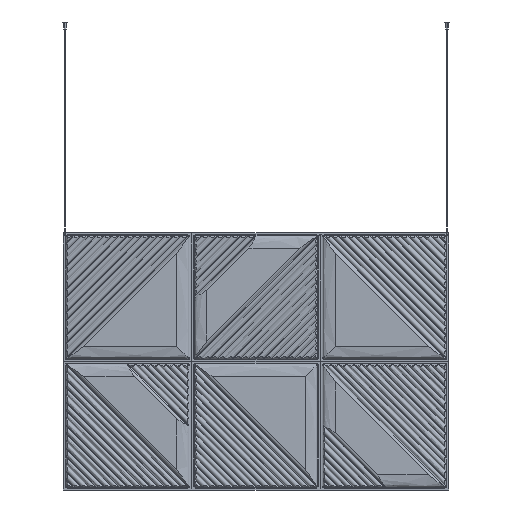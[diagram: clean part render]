
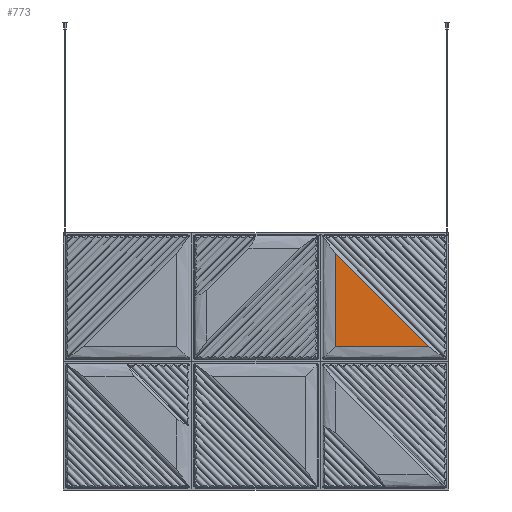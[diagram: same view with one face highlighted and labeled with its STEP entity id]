
A CAD part, front view. The second image highlights one B-rep face of the part: STEP entity #773.
In plain terms, the highlighted planar face has unit normal (0, -1, 0).
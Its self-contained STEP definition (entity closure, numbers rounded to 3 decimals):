
#773=ADVANCED_FACE('',(#1684),#14704,.T.);
#1684=FACE_OUTER_BOUND('',#2616,.T.);
#2616=EDGE_LOOP('',(#6729,#6730,#6731));
#6729=ORIENTED_EDGE('',*,*,#9624,.T.);
#6730=ORIENTED_EDGE('',*,*,#9662,.T.);
#6731=ORIENTED_EDGE('',*,*,#9617,.T.);
#9617=EDGE_CURVE('',#13873,#13872,#11584,.T.);
#9624=EDGE_CURVE('',#13872,#13879,#11590,.T.);
#9662=EDGE_CURVE('',#13879,#13873,#11627,.T.);
#11584=B_SPLINE_CURVE_WITH_KNOTS('',1,(#44584,#44585),.UNSPECIFIED.,.F.,
 .F.,(2,2),(151.633,585.954),.UNSPECIFIED.);
#11590=B_SPLINE_CURVE_WITH_KNOTS('',1,(#44634,#44635),.UNSPECIFIED.,.F.,
 .F.,(2,2),(129.916,564.237),.UNSPECIFIED.);
#11627=B_SPLINE_CURVE_WITH_KNOTS('',1,(#45308,#45309),.UNSPECIFIED.,.F.,
 .F.,(2,2),(-696.866,-82.643),.UNSPECIFIED.);
#13872=VERTEX_POINT('',#36664);
#13873=VERTEX_POINT('',#36665);
#13879=VERTEX_POINT('',#36671);
#14704=PLANE('',#15632);
#15632=AXIS2_PLACEMENT_3D('',#35286,#16160,$);
#16160=DIRECTION('',(0.,-1.,0.));
#35286=CARTESIAN_POINT('',(7852.274,-1289.407,1030.575));
#36664=CARTESIAN_POINT('',(8561.214,-1289.407,467.919));
#36665=CARTESIAN_POINT('',(8561.214,-1289.407,902.24));
#36671=CARTESIAN_POINT('',(8995.535,-1289.407,467.919));
#44584=CARTESIAN_POINT('',(8561.214,-1289.407,902.24));
#44585=CARTESIAN_POINT('',(8561.214,-1289.407,467.919));
#44634=CARTESIAN_POINT('',(8561.214,-1289.407,467.919));
#44635=CARTESIAN_POINT('',(8995.535,-1289.407,467.919));
#45308=CARTESIAN_POINT('',(8995.535,-1289.407,467.919));
#45309=CARTESIAN_POINT('',(8561.214,-1289.407,902.24));
